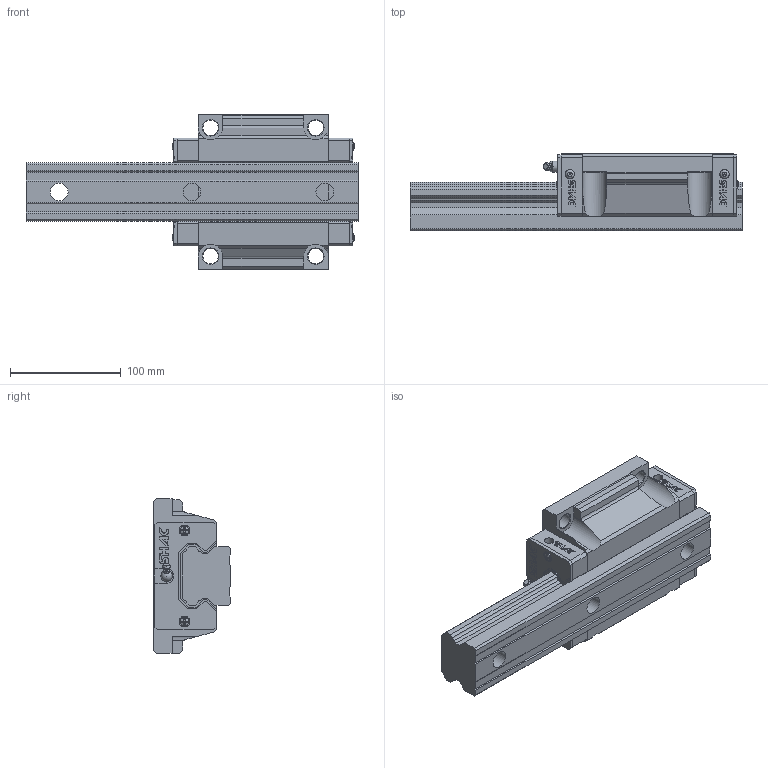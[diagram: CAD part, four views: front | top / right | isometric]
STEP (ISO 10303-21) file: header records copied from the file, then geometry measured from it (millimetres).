
FILE_DESCRIPTION( ( 'STEP AP214' ), '1' );
FILE_NAME( 'F:/品牌/SHAC 台湾鼎翰传动科技有限公司/3D滑块/GHW55CB1R300Z0C-30_30_1_1_.stp', '2025-04-21T22:48:34', ( 'License CC BY-ND 4.0' ), ( 'CADENAS' ), ' ', 'PARTsolutions', ' ' );
FILE_SCHEMA( ( 'AUTOMOTIVE_DESIGN { 1 0 10303 214 1 1 1 1 }' ) );
Length unit declared in the file: millimetre
Products named in the file (8): GHW55CB1R300Z0C-30/30(1_1); _GHR55R300C+RC-30/30(1)_RAIL; _GHW55CB_SLIDER; _GHW55CB_C; _GHW55CB_P; _GH55_SCREW; _GH55_BOLT; _GH55-_G
Assembly tree (12 placements, depth 2):
  GHW55CB1R300Z0C-30/30(1_1)
    _GHR55R300C+RC-30/30(1)_RAIL
    _GHW55CB_SLIDER
    _GHW55CB_C  x2
    _GHW55CB_P  x2
    _GH55_SCREW  x4
    _GH55_BOLT
    _GH55-_G
Bounding box: 300 x 70 x 140 mm (x, y, z)
Volume: 1377887.1 mm3; surface area: 187714.2 mm2
Topology: 12 solids, 12 shells, 810 faces, 2158 edges, 1423 vertices
Faces by surface type: plane 658, cylinder 111, cone 26, torus 9, sphere 5, bspline 1
Full cylindrical faces by diameter (mm): 1 x4, 4.5 x1, 4.7 x4, 7.35 x2, 7.76 x4, 8.4 x4, 9.7 x4, 10 x2, 10.3 x2, 14 x4, 16 x3, 23 x3
Entity records: 19627 total; most frequent: CARTESIAN_POINT 2896, ORIENTED_EDGE 2584, DIRECTION 2506, EDGE_CURVE 1292, LINE 1044, VECTOR 1044, VERTEX_POINT 877, AXIS2_PLACEMENT_3D 731
